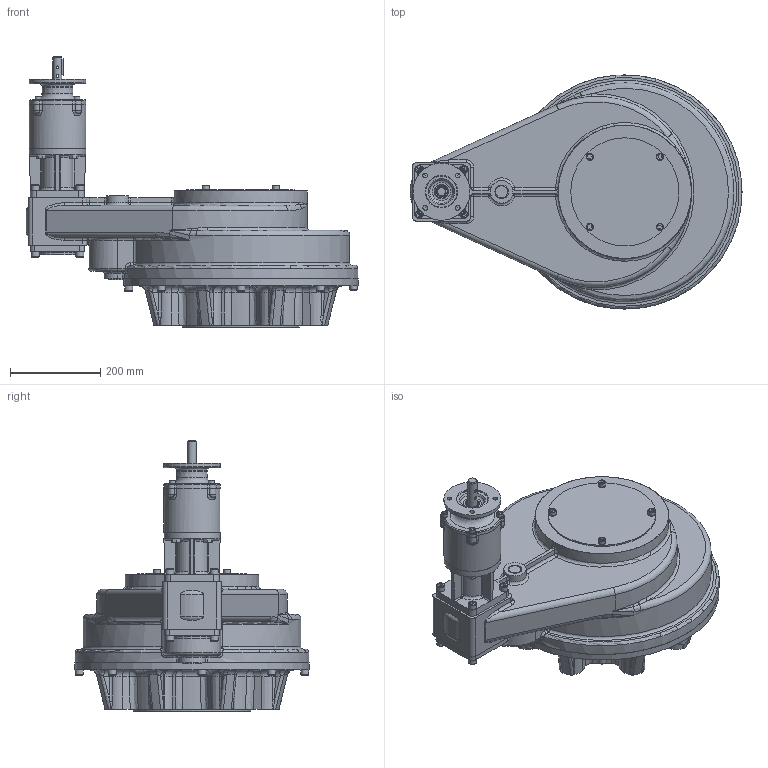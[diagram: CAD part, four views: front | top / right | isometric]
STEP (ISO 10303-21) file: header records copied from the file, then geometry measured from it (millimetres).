
FILE_DESCRIPTION( ( 'Unknown' ), '1' );
FILE_NAME( 'X:/CURRENT/PUB/Hos/HOS 2015/HOS-MPR/HOS-MPR-Models/PUB-HOS13MPR4-63.3-F35.stp', 'Unknown', ( 'Unknown' ), ( 'Unknown' ), 'PSStep 16.0.42', 'Unknown', ' ' );
FILE_SCHEMA( ( 'AUTOMOTIVE_DESIGN { 1 0 10303 214 1 1 1 1 }' ) );
Length unit declared in the file: millimetre
Products named in the file (47): 1; 2; 3; 4; 5; 6; 7; 8; 9; 10; 11; 12; 13; 14; 15; 16; 17; 18; 19; 20; 21; 22; 23; 24; 25; 26; 27; 28; trelleborg_trea00200-n7mm_b5c67wtxxcj74kwnwb2box077_01; 29; 30; 31; 32; 33; 34; 35; 36; 37; 38; 39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
Bounding box: 736.7 x 520 x 601.46 mm (x, y, z)
Surface area: 1367628.8 mm2 (no closed solid volume)
Topology: 0 solids, 910 shells, 910 faces, 4246 edges, 4085 vertices
Faces by surface type: plane 327, cylinder 211, bspline 171, cone 87, torus 86, sphere 28
Full cylindrical faces by diameter (mm): 6 x2, 10.5 x4, 13.27 x4, 16 x6, 18 x14, 20 x1, 26.5 x8, 30 x2, 39.95 x1, 50 x1, 70 x1, 80 x1, 125 x1, 126 x1, 160.05 x1, 240 x1, 259.93 x1, 279.93 x1, 296 x1, 520 x1
Entity records: 92706 total; most frequent: CARTESIAN_POINT 54908, DIRECTION 6115, VERTEX_POINT 4034, ORIENTED_EDGE 4026, EDGE_CURVE 4026, AXIS2_PLACEMENT_3D 2251, LINE 1613, VECTOR 1613
